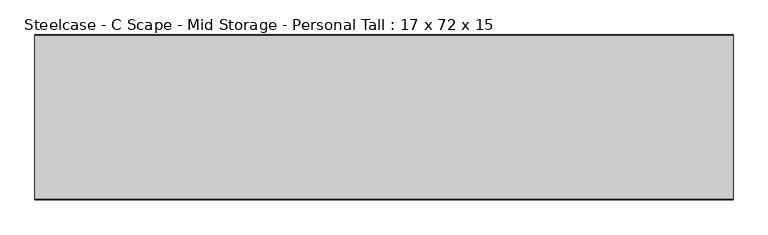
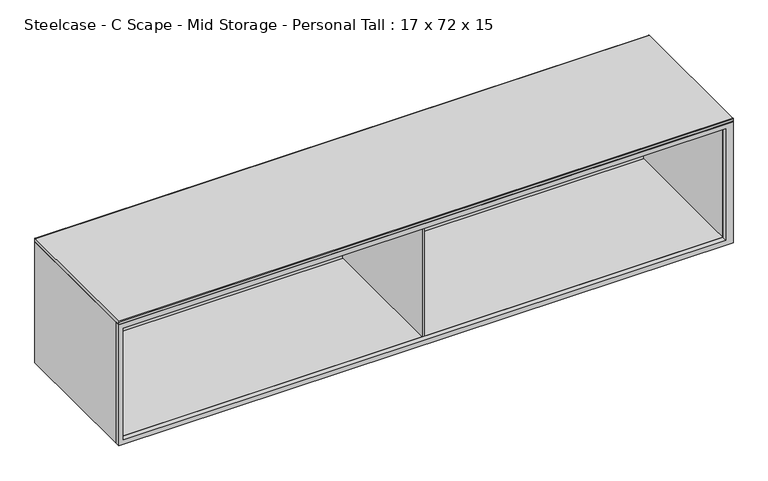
"""IFC4 building model written with IfcOpenShell, lengths in millimetres: furniture geometry, Steelcase - C Scape - Mid Storage - Personal Tall : 17 x 72 x 15."""

import ifcopenshell
import ifcopenshell.guid

model = None  # the IFC model being written
_history = None  # IfcOwnerHistory: only IFC2X3 demands one
_inside = {}  # id of a spatial element -> (the spatial element, [elements in it])
_under = {}  # id of a project, library or spatial element -> (it, [spatial elements below it])
_declared = {}  # id of a project -> (the project, [libraries it declares])
_typed = {}  # id of a type object -> (the type object, [elements of that type])
_made_of = {}  # id of a material, layer set ... -> (it, [elements and type objects made of it])


def new_model(schema):
    """Start an empty IFC model of exactly this schema.

    Asked for "IFC4X3", IfcOpenShell would pick the latest addendum, in which some entities
    have other attributes; the version numbers below select the first issue.
    IFC2X3 requires an IfcOwnerHistory on every rooted entity: one is made here for all.
    """
    global model, _history
    if schema == "IFC4X3":
        model = ifcopenshell.file(schema_version=(4, 3, 0, 0))
    else:
        model = ifcopenshell.file(schema=schema)
    _inside.clear()
    _under.clear()
    _declared.clear()
    _typed.clear()
    _made_of.clear()
    _history = None
    if model.schema == "IFC2X3":
        org = make("IfcOrganization", Name="unknown")
        user = make(
            "IfcPersonAndOrganization",
            ThePerson=make("IfcPerson", FamilyName="unknown"),
            TheOrganization=org,
        )
        app = make(
            "IfcApplication",
            ApplicationDeveloper=org,
            Version="unknown",
            ApplicationFullName="unknown",
            ApplicationIdentifier="unknown",
        )
        _history = make(
            "IfcOwnerHistory",
            OwningUser=user,
            OwningApplication=app,
            ChangeAction="ADDED",
            CreationDate=0,
        )
    return model


def make(cls, **values):
    """One entity of the class cls with the attributes given. An attribute that is None is left unset."""
    return model.create_entity(
        cls, **{name: value for name, value in values.items() if value is not None}
    )


def rooted(cls, **values):
    """An entity with a GlobalId (a new one), such as an element, a storey or a relation."""
    return make(cls, GlobalId=ifcopenshell.guid.new(), OwnerHistory=_history, **values)


def si_unit(unit_type, name, prefix=None):
    """IfcSIUnit, for example si_unit("LENGTHUNIT", "METRE", prefix="MILLI")."""
    return make("IfcSIUnit", UnitType=unit_type, Prefix=prefix, Name=name)


def assignment(units):
    """IfcUnitAssignment: the units of a project."""
    return None if units is None else make("IfcUnitAssignment", Units=units)


def point(xyz):
    """IfcCartesianPoint."""
    return None if xyz is None else make("IfcCartesianPoint", Coordinates=xyz)


def direction(xyz):
    """IfcDirection."""
    return None if xyz is None else make("IfcDirection", DirectionRatios=xyz)


def frame(location, z_axis=None, x_axis=None):
    """IfcAxis2Placement3D, a coordinate frame: its origin and axes. An axis left out is left unset."""
    return make(
        "IfcAxis2Placement3D",
        Location=point(location),
        Axis=direction(z_axis),
        RefDirection=direction(x_axis),
    )


def frame_2d(location, x_axis=None):
    """IfcAxis2Placement2D, a coordinate frame in the plane: its origin and x axis."""
    return make(
        "IfcAxis2Placement2D", Location=point(location), RefDirection=direction(x_axis)
    )


def origin():
    """The frame at (0, 0, 0) with its axes left unset."""
    return frame((0.0, 0.0, 0.0))


def place(relative_to, where):
    """IfcLocalPlacement: puts the frame where relative to a parent placement (None: the world)."""
    return make(
        "IfcLocalPlacement", PlacementRelTo=relative_to, RelativePlacement=where
    )


def context(
    kind, dimensions, precision=None, world=None, true_north=None, identifier=None
):
    """IfcGeometricRepresentationContext, for example the 3D "Model" context."""
    return make(
        "IfcGeometricRepresentationContext",
        ContextIdentifier=identifier,
        ContextType=kind,
        CoordinateSpaceDimension=dimensions,
        Precision=precision,
        WorldCoordinateSystem=world,
        TrueNorth=true_north,
    )


def project(units=None, contexts=None):
    """IfcProject with its units and contexts."""
    return rooted(
        "IfcProject",
        Name="project",
        RepresentationContexts=contexts,
        UnitsInContext=assignment(units),
    )


def spatial(cls, under=None, at=None, **own):
    """A site, building, storey or space (cls), placed at a placement, below another one or the project."""
    s = rooted(cls, ObjectPlacement=at, **own)
    if under is not None:
        _under.setdefault(under.id(), (under, []))[1].append(s)
    return s


def polyline(points):
    """IfcPolyline through the points."""
    return make("IfcPolyline", Points=[point(p) for p in points])


def circle_curve(where, radius):
    """IfcCircle in the frame where."""
    return make("IfcCircle", Position=where, Radius=radius)


def trimmed(basis, trim1, trim2, sense, master):
    """IfcTrimmedCurve: the piece of a basis curve between two trims."""
    return make(
        "IfcTrimmedCurve",
        BasisCurve=basis,
        Trim1=trim1,
        Trim2=trim2,
        SenseAgreement=sense,
        MasterRepresentation=master,
    )


def segment(curve, same_sense, transition):
    """IfcCompositeCurveSegment."""
    return make(
        "IfcCompositeCurveSegment",
        Transition=transition,
        SameSense=same_sense,
        ParentCurve=curve,
    )


def composite_curve(segments, self_intersect=None):
    """IfcCompositeCurve: segments joined end to end."""
    return make("IfcCompositeCurve", Segments=segments, SelfIntersect=self_intersect)


def outline(outer, holes=None, kind="AREA"):
    """IfcArbitraryClosedProfileDef: a profile drawn as a closed curve; with holes, ...WithVoids."""
    if holes is None:
        return make("IfcArbitraryClosedProfileDef", ProfileType=kind, OuterCurve=outer)
    return make(
        "IfcArbitraryProfileDefWithVoids",
        ProfileType=kind,
        OuterCurve=outer,
        InnerCurves=holes,
    )


def extrude(swept, where, along, depth):
    """IfcExtrudedAreaSolid: the profile swept, set in the frame where, extruded along a direction by depth."""
    return make(
        "IfcExtrudedAreaSolid",
        SweptArea=swept,
        Position=where,
        ExtrudedDirection=direction(along),
        Depth=depth,
    )


def shape(context_of_items, identifier, shape_type, items):
    """IfcShapeRepresentation: the items that make up one representation, for example the "Body"."""
    return make(
        "IfcShapeRepresentation",
        ContextOfItems=context_of_items,
        RepresentationIdentifier=identifier,
        RepresentationType=shape_type,
        Items=items,
    )


def source(mapping_origin, context_of_items, identifier, shape_type, items):
    """IfcRepresentationMap: a shape defined once, which mapped items show again and again."""
    return make(
        "IfcRepresentationMap",
        MappingOrigin=mapping_origin,
        MappedRepresentation=shape(context_of_items, identifier, shape_type, items),
    )


def transform(
    local_origin,
    x_axis=None,
    y_axis=None,
    z_axis=None,
    scale=None,
    scale2=None,
    scale3=None,
    uniform=True,
):
    """IfcCartesianTransformationOperator3D, or its non-uniform kind. x_axis, y_axis, z_axis: its Axis1, 2, 3."""
    if uniform:
        return make(
            "IfcCartesianTransformationOperator3D",
            Axis1=direction(x_axis),
            Axis2=direction(y_axis),
            LocalOrigin=point(local_origin),
            Scale=scale,
            Axis3=direction(z_axis),
        )
    return make(
        "IfcCartesianTransformationOperator3DnonUniform",
        Axis1=direction(x_axis),
        Axis2=direction(y_axis),
        LocalOrigin=point(local_origin),
        Scale=scale,
        Axis3=direction(z_axis),
        Scale2=scale2,
        Scale3=scale3,
    )


def mapped(mapping_source, mapping_target):
    """IfcMappedItem: shows the shape of a source again, moved by a transform."""
    return make(
        "IfcMappedItem", MappingSource=mapping_source, MappingTarget=mapping_target
    )


def made_of(thing, what):
    """Note that an element or type object is made of a material, layer set ...; save() writes the relation."""
    if what is not None:
        _made_of.setdefault(what.id(), (what, []))[1].append(thing)
    return thing


def element(
    cls,
    number,
    at=None,
    inside=None,
    cuts=None,
    type_object=None,
    material=None,
    context=None,
    identifier="Body",
    shape_type=None,
    held_by="IfcProductDefinitionShape",
    body=None,
    shapes=None,
    **own,
):
    """One element of the class cls, such as IfcWall. Its Tag is "e" and its number.

    at: its placement. inside: the storey or other place that contains it. cuts: it is an
    opening in that element (IfcRelVoidsElement). A single representation is given by context,
    identifier, shape_type and body (its items); several are given by shapes. held_by: the class
    of the entity that holds the representations. save() writes the other relations.
    """
    e = rooted(cls, Tag="e%d" % number, ObjectPlacement=at, **own)
    if body is not None:
        shapes = [shape(context, identifier, shape_type, body)]
    if shapes is not None:
        e.Representation = make(held_by, Representations=shapes)
    if inside is not None:
        _inside.setdefault(inside.id(), (inside, []))[1].append(e)
    if cuts is not None:
        rooted(
            "IfcRelVoidsElement", RelatingBuildingElement=cuts, RelatedOpeningElement=e
        )
    if type_object is not None:
        _typed.setdefault(type_object.id(), (type_object, []))[1].append(e)
    return made_of(e, material)


def aggregate(whole, parts):
    """IfcRelAggregates: a whole, such as a stair, and the parts it consists of."""
    return rooted("IfcRelAggregates", RelatingObject=whole, RelatedObjects=parts)


def save(model, path):
    """Write the relations noted so far, then the file.

    IfcRelAggregates (storeys below a building ...), IfcRelContainedInSpatialStructure (elements
    in a storey), IfcRelDefinesByType, IfcRelAssociatesMaterial and IfcRelDeclares: one each for
    every whole, place, type object, material and project.
    """
    for whole, parts in _under.values():
        aggregate(whole, parts)
    for where, things in _inside.values():
        rooted(
            "IfcRelContainedInSpatialStructure",
            RelatedElements=things,
            RelatingStructure=where,
        )
    for kind, things in _typed.values():
        rooted("IfcRelDefinesByType", RelatedObjects=things, RelatingType=kind)
    for what, things in _made_of.values():
        rooted("IfcRelAssociatesMaterial", RelatedObjects=things, RelatingMaterial=what)
    for by, libraries in _declared.values():
        rooted("IfcRelDeclares", RelatingContext=by, RelatedDefinitions=libraries)
    model.write(path)


def steelcase_c_scape_mid_storage_personal_tall_17_x_72_x_15_afa2e508(model_context):
    return source(origin(), model_context, "Body", "SweptSolid", [
        extrude(outline(polyline([(1219.2, 1828.8), (1219.2, 0.0), (838.2, 0.0), (838.2, 1828.8), (1219.2, 1828.8)]), holes=[polyline([(1203.9092, 1806.702), (853.4399855, 1806.702), (853.4399855, 13.437709), (1203.9092, 13.437709), (1203.9092, 1806.702)])]), frame((0.0, -216.535, 0.0), z_axis=(0.0, 1.0, 0.0), x_axis=(0.0, 0.0, 1.0)), (0.0, 0.0, 1.0), 14.3764481),
        extrude(outline(polyline([(1806.702, 207.0105809), (1806.702, -187.7821039), (13.437709, -187.7821039), (13.437709, 207.0105809), (1806.702, 207.0105809)])), frame((0.0, 0.0, 1203.9600145), z_axis=(0.0, 0.0, 1.0), x_axis=(1.0, 0.0, 0.0)), (0.0, 0.0, 1.0), 15.2399855),
        extrude(outline(polyline([(1806.702, 207.0105809), (1806.702, -202.1585519), (13.437709, -202.1585519), (13.437709, 207.0105809), (1806.702, 207.0105809)])), frame((0.0, 0.0, 838.2), z_axis=(0.0, 0.0, 1.0), x_axis=(1.0, 0.0, 0.0)), (0.0, 0.0, 1.0), 15.2399855),
        extrude(outline(composite_curve([segment(polyline([(-215.265, 1229.36), (215.265, 1229.36)]), True, "CONTINUOUS"), segment(trimmed(circle_curve(frame_2d((215.265, 1228.09)), 1.27), [point((215.265, 1229.36))], [point((216.535, 1228.09))], False, "CARTESIAN"), True, "CONTINUOUS"), segment(polyline([(216.535, 1228.09), (216.535, 1220.47)]), True, "CONTINUOUS"), segment(trimmed(circle_curve(frame_2d((215.265, 1220.47)), 1.27), [point((216.535, 1220.47))], [point((215.265, 1219.2))], False, "CARTESIAN"), True, "CONTINUOUS"), segment(polyline([(215.265, 1219.2), (-215.265, 1219.2)]), True, "CONTINUOUS"), segment(trimmed(circle_curve(frame_2d((-215.265, 1220.47)), 1.27), [point((-215.265, 1219.2))], [point((-216.535, 1220.47))], False, "CARTESIAN"), True, "CONTINUOUS"), segment(polyline([(-216.535, 1220.47), (-216.535, 1228.09)]), True, "CONTINUOUS"), segment(trimmed(circle_curve(frame_2d((-215.265, 1228.09)), 1.27), [point((-216.535, 1228.09))], [point((-215.265, 1229.36))], False, "CARTESIAN"), True, "CONTINUOUS")], self_intersect=False)), frame((0.0, 0.0, 0.0), z_axis=(1.0, 0.0, 0.0), x_axis=(0.0, 1.0, 0.0)), (0.0, 0.0, 1.0), 1828.8),
        extrude(outline(polyline([(911.225, -202.1585519), (911.225, 207.0105809), (917.575, 207.0105809), (917.575, -202.1585519), (911.225, -202.1585519)])), frame((0.0, 0.0, 853.4399855), z_axis=(0.0, 0.0, 1.0), x_axis=(1.0, 0.0, 0.0)), (0.0, 0.0, 1.0), 365.7600145),
        extrude(outline(polyline([(13.437709, -202.1585519), (0.0, -202.1585519), (0.0, 216.535), (1828.8, 216.535), (1828.8, -202.1585519), (1806.702, -202.1585519), (1806.702, 207.0105809), (945.6892922, 207.0105809), (13.437709, 207.0105809), (13.437709, -202.1585519)])), frame((0.0, 0.0, 838.2), z_axis=(0.0, 0.0, 1.0), x_axis=(1.0, 0.0, 0.0)), (0.0, 0.0, 1.0), 381.0),
    ])


if __name__ == "__main__":
    model = new_model("IFC4")
    model_context = context("Model", 3, world=origin())
    ifc_project = project(units=[si_unit("LENGTHUNIT", "METRE", prefix="MILLI")], contexts=[model_context])
    site = spatial("IfcSite", under=ifc_project)
    building = spatial("IfcBuilding", under=site)
    placement = place(None, origin())
    steelcase_c_scape_mid_storage_personal_tall_17_x_72_x_15_shape = steelcase_c_scape_mid_storage_personal_tall_17_x_72_x_15_afa2e508(model_context)
    element("IfcFurniture", 1, ObjectType="Steelcase - C Scape - Mid Storage - Personal Tall : 17 x 72 x 15", at=placement, inside=building, context=model_context, shape_type="MappedRepresentation", body=[
        mapped(steelcase_c_scape_mid_storage_personal_tall_17_x_72_x_15_shape, transform((0.0, 0.0, 0.0), x_axis=(1.0, 0.0, 0.0), y_axis=(0.0, 1.0, 0.0), z_axis=(0.0, 0.0, 1.0))),
    ])
    save(model, "model.ifc")
